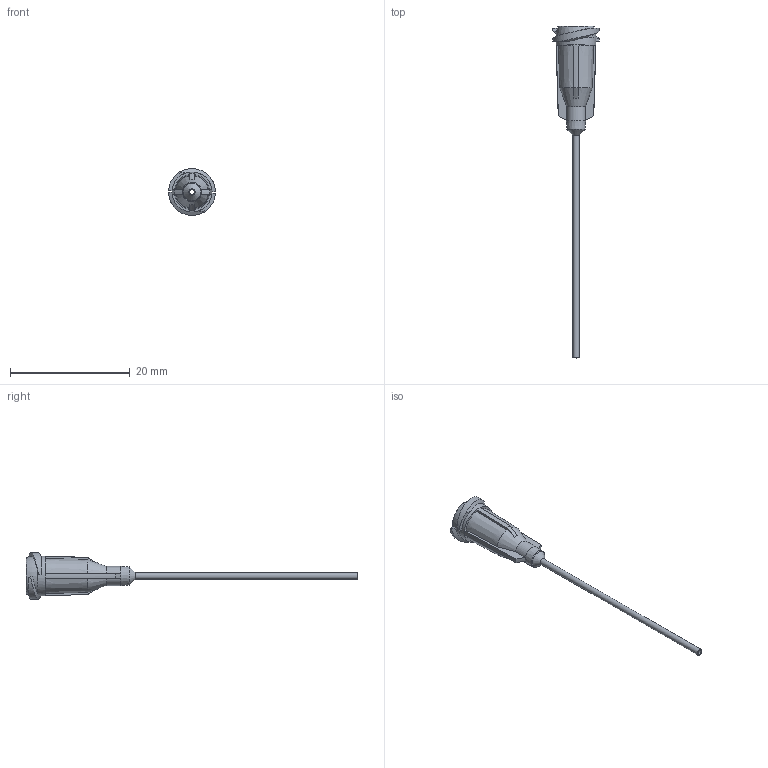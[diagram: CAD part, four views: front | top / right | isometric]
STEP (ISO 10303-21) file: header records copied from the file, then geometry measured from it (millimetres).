
FILE_DESCRIPTION (( 'STEP AP214' ), '1' );
FILE_NAME ('DAV TE 19 15.STEP', '2023-09-29T06:10:36', ( '' ), ( '' ), 'SwSTEP 2.0', 'SolidWorks 2022', '' );
FILE_SCHEMA (( 'AUTOMOTIVE_DESIGN' ));
Length unit declared in the file: millimetre
Products named in the file (1): DAV TE 19 15
Bounding box: 7.82 x 55.47 x 7.82 mm (x, y, z)
Volume: 276.4 mm3; surface area: 756.2 mm2
Topology: 1 solids, 1 shells, 63 faces, 161 edges, 101 vertices
Faces by surface type: plane 23, cone 16, bspline 10, cylinder 7, torus 7
Full cylindrical faces by diameter (mm): 0.79 x1, 1.06 x1, 2.87 x1, 6.655 x1
Entity records: 2066 total; most frequent: CARTESIAN_POINT 796, ORIENTED_EDGE 262, DIRECTION 228, EDGE_CURVE 131, AXIS2_PLACEMENT_3D 99, VERTEX_POINT 89, EDGE_LOOP 80, FACE_OUTER_BOUND 71
